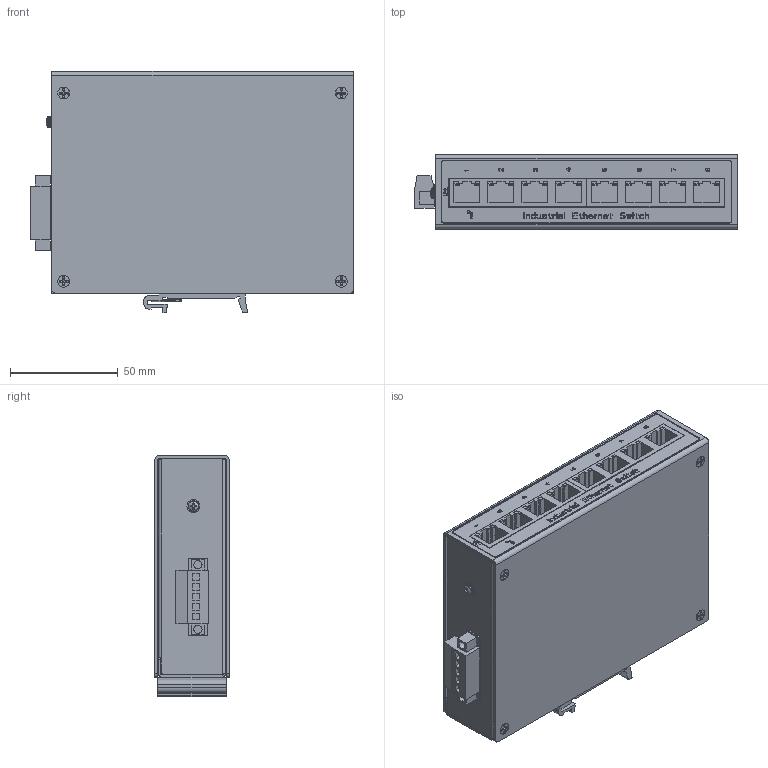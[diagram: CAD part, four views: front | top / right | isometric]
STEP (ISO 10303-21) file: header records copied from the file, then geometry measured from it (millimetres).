
FILE_DESCRIPTION((''),'2;1');
FILE_NAME('NEU1080FD__FDP_GD_DGP_QR-251210_ASM','2026-03-20T12:46:23',('WB'),(''),'CREO PARAMETRIC BY PTC INC, 2020053','CREO PARAMETRIC BY PTC INC, 2020053','');
FILE_SCHEMA(('AUTOMOTIVE_DESIGN { 1 0 10303 214 1 1 1 1 }'));
Products named in the file (18): XIAKE_15; SHANGKE_8; PVC_20; PCB_1_1; PCB_1_2; PCB_1_ASM; LXLYM-2EDGRM_3_1; LXLYM-2EDGRM_3_2; LXLYM-2EDGRM_3_ASM; 1X4_RJ45_LED_2; PCB2_1; LED_TP_1; NEU1080GP_PCBA_ASM_3_ASM; M3X6MM_DP_1; KM3X6MM_1; GUAGOU-35MM_2; NEUH1080GD_ASM_21_ASM; NEU1080FD__FDP_GD_DGP_QR-251210_ASM
Assembly tree (29 placements, depth 5):
  NEU1080FD__FDP_GD_DGP_QR-251210_ASM
    NEUH1080GD_ASM_21_ASM
      XIAKE_15
      SHANGKE_8
      PVC_20
      NEU1080GP_PCBA_ASM_3_ASM
        PCB_1_ASM
          PCB_1_1
          PCB_1_2
        LXLYM-2EDGRM_3_ASM
          LXLYM-2EDGRM_3_1
          LXLYM-2EDGRM_3_2
        1X4_RJ45_LED_2  x2
        PCB2_1
        LED_TP_1
      M3X6MM_DP_1  x5
      KM3X6MM_1  x8
      GUAGOU-35MM_2
Bounding box: 149.8 x 35 x 112 mm (x, y, z)
Volume: 129355 mm3; surface area: 180488.6 mm2
Topology: 25 solids, 25 shells, 2592 faces, 6987 edges, 4564 vertices
Faces by surface type: plane 1857, cylinder 520, cone 72, bspline 51, torus 50, sphere 42
Entity records: 77576 total; most frequent: CARTESIAN_POINT 12673, ORIENTED_EDGE 10102, DIRECTION 9381, PRESENTATION_STYLE_ASSIGNMENT 5151, STYLED_ITEM 5069, CURVE_STYLE 5051, EDGE_CURVE 5051, VECTOR 4369
